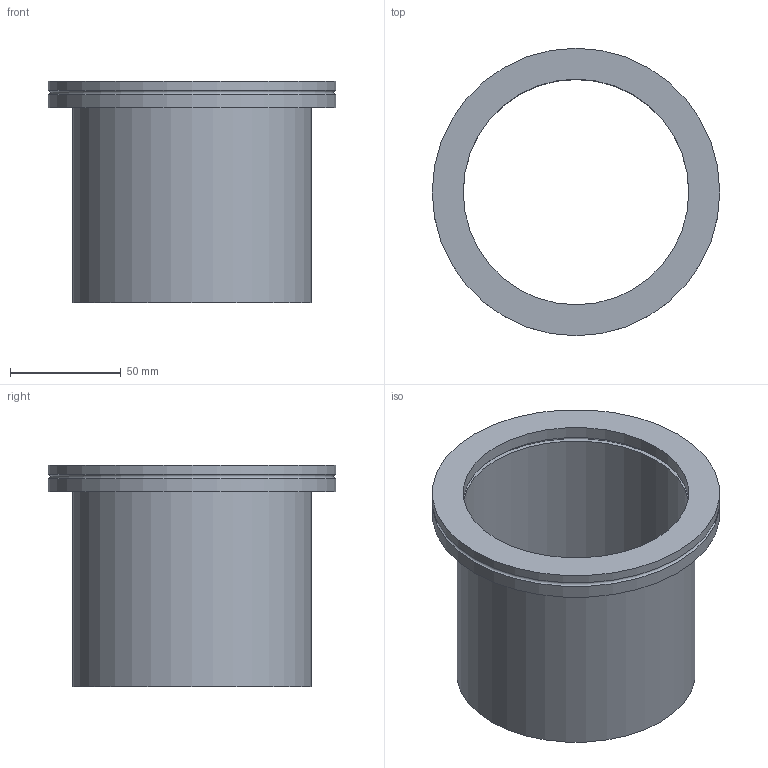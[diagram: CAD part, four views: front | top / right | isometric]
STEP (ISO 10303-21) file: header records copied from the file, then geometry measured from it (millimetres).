
FILE_DESCRIPTION( ( 'Unknown' ), '1' );
FILE_NAME( 'X:/Daten ( aktueller Bestand )/Projekte und Zeichnungen/Solid Edge/STP-Dateien/ISO-K Teile und Zubehör/65724.stp', 'Unknown', ( 'Unknown' ), ( 'Unknown' ), 'PSStep 14.0', 'Unknown', ' ' );
FILE_SCHEMA( ( 'AUTOMOTIVE_DESIGN { 1 0 10303 214 1 1 1 1 }' ) );
Length unit declared in the file: millimetre
Products named in the file (5): 6512; 6572-1; Assem1
Assembly tree (4 placements, depth 3):
  Assem1
    6572-1
      6572-1
    6512
      6512
Bounding box: 130 x 130 x 100 mm (x, y, z)
Volume: 142869.2 mm3; surface area: 83638 mm2
Topology: 2 solids, 2 shells, 17 faces, 27 edges, 17 vertices
Faces by surface type: cylinder 8, plane 7, cone 1, torus 1
Full cylindrical faces by diameter (mm): 102 x2, 108 x1, 108.5 x1, 115 x1, 125 x1, 130 x2
Entity records: 590 total; most frequent: DIRECTION 82, CARTESIAN_POINT 58, AXIS2_PLACEMENT_3D 41, EDGE_LOOP 34, ORIENTED_EDGE 34, FACE_OUTER_BOUND 26, STYLED_ITEM 17, PRESENTATION_STYLE_ASSIGNMENT 17
